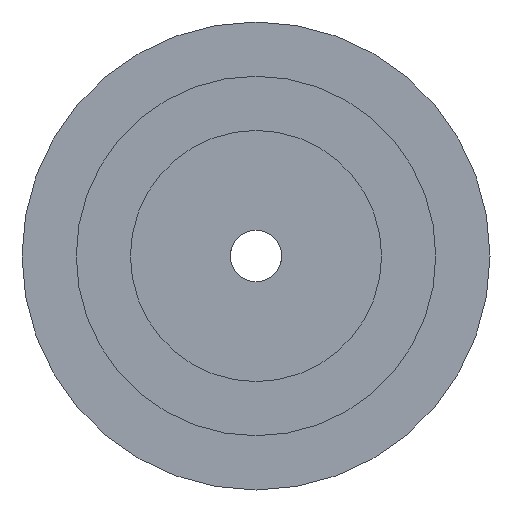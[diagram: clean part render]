
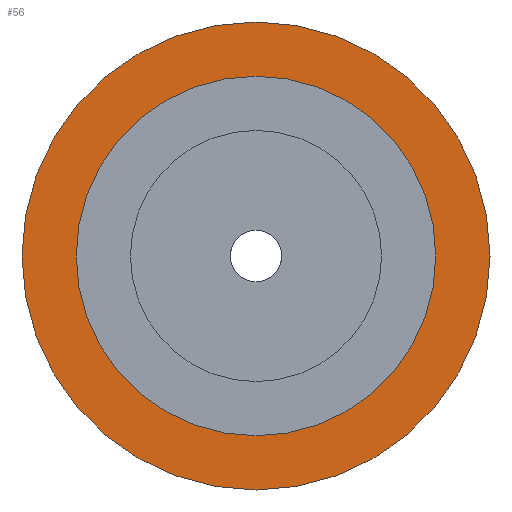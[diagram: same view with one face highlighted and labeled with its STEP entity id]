
A CAD part, front view. The second image highlights one B-rep face of the part: STEP entity #56.
In plain terms, the highlighted planar face has unit normal (0, -1, 0).
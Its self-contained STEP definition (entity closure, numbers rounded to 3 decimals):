
#35 = EDGE_CURVE ( 'NONE', #685, #684, #2880, .T. ) ;
#56 = ADVANCED_FACE ( 'NONE', ( #2848, #3040 ), #2854, .T. ) ;
#57 = EDGE_LOOP ( 'NONE', ( #58, #59 ) ) ;
#58 = ORIENTED_EDGE ( 'NONE', *, *, #649, .T. ) ;
#59 = ORIENTED_EDGE ( 'NONE', *, *, #60, .T. ) ;
#60 = EDGE_CURVE ( 'NONE', #647, #650, #3035, .T. ) ;
#61 = EDGE_LOOP ( 'NONE', ( #62, #114 ) ) ;
#62 = ORIENTED_EDGE ( 'NONE', *, *, #683, .F. ) ;
#114 = ORIENTED_EDGE ( 'NONE', *, *, #35, .F. ) ;
#647 = VERTEX_POINT ( 'NONE', #2672 ) ;
#649 = EDGE_CURVE ( 'NONE', #650, #647, #2671, .T. ) ;
#650 = VERTEX_POINT ( 'NONE', #2666 ) ;
#683 = EDGE_CURVE ( 'NONE', #684, #685, #2600, .T. ) ;
#684 = VERTEX_POINT ( 'NONE', #2595 ) ;
#685 = VERTEX_POINT ( 'NONE', #2594 ) ;
#2594 = CARTESIAN_POINT ( 'NONE',  ( 0., 29., 31.5 ) ) ;
#2595 = CARTESIAN_POINT ( 'NONE',  ( 0., 29., -31.5 ) ) ;
#2596 = DIRECTION ( 'NONE',  ( 0., 0., -1. ) ) ;
#2597 = DIRECTION ( 'NONE',  ( 0., -1., 0. ) ) ;
#2598 = CARTESIAN_POINT ( 'NONE',  ( 0., 29., 0. ) ) ;
#2599 = AXIS2_PLACEMENT_3D ( 'NONE', #2598, #2597, #2596 ) ;
#2600 = CIRCLE ( 'NONE', #2599, 31.5 ) ;
#2666 = CARTESIAN_POINT ( 'NONE',  ( 0., 29., -41. ) ) ;
#2667 = DIRECTION ( 'NONE',  ( 0., 0., -1. ) ) ;
#2668 = DIRECTION ( 'NONE',  ( 0., -1., 0. ) ) ;
#2669 = CARTESIAN_POINT ( 'NONE',  ( 0., 29., 0. ) ) ;
#2670 = AXIS2_PLACEMENT_3D ( 'NONE', #2669, #2668, #2667 ) ;
#2671 = CIRCLE ( 'NONE', #2670, 41. ) ;
#2672 = CARTESIAN_POINT ( 'NONE',  ( 0., 29., 41. ) ) ;
#2848 = FACE_OUTER_BOUND ( 'NONE', #57, .T. ) ;
#2854 = PLANE ( 'NONE',  #3039 ) ;
#2876 = DIRECTION ( 'NONE',  ( 0., 0., -1. ) ) ;
#2877 = DIRECTION ( 'NONE',  ( 0., -1., 0. ) ) ;
#2878 = CARTESIAN_POINT ( 'NONE',  ( 0., 29., 0. ) ) ;
#2879 = AXIS2_PLACEMENT_3D ( 'NONE', #2878, #2877, #2876 ) ;
#2880 = CIRCLE ( 'NONE', #2879, 31.5 ) ;
#3031 = DIRECTION ( 'NONE',  ( 0., 0., -1. ) ) ;
#3032 = DIRECTION ( 'NONE',  ( 0., -1., 0. ) ) ;
#3033 = CARTESIAN_POINT ( 'NONE',  ( 0., 29., 0. ) ) ;
#3034 = AXIS2_PLACEMENT_3D ( 'NONE', #3033, #3032, #3031 ) ;
#3035 = CIRCLE ( 'NONE', #3034, 41. ) ;
#3036 = DIRECTION ( 'NONE',  ( 0., 0., -1. ) ) ;
#3037 = DIRECTION ( 'NONE',  ( 0., -1., 0. ) ) ;
#3038 = CARTESIAN_POINT ( 'NONE',  ( 31.5, 29., 0. ) ) ;
#3039 = AXIS2_PLACEMENT_3D ( 'NONE', #3038, #3037, #3036 ) ;
#3040 = FACE_BOUND ( 'NONE', #61, .T. ) ;
